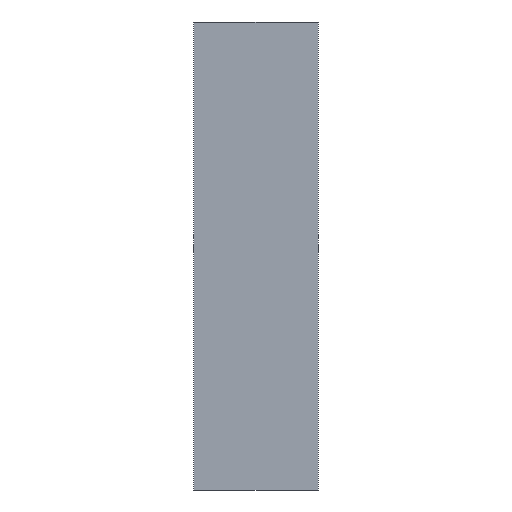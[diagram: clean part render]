
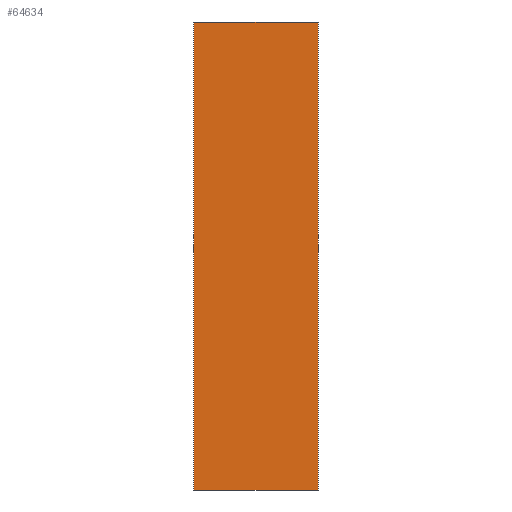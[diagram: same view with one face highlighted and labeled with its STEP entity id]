
A CAD part, front view. The second image highlights one B-rep face of the part: STEP entity #64634.
In plain terms, the highlighted planar face has unit normal (0, -1, 0).
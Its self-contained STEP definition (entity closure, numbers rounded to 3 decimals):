
#7462=DIRECTION('',(1.,0.,0.));
#7463=VECTOR('',#7462,80.);
#7464=CARTESIAN_POINT('',(-40.,104.,70.));
#7465=LINE('',#7464,#7463);
#7466=DIRECTION('',(0.,0.,-1.));
#7467=VECTOR('',#7466,300.);
#7468=CARTESIAN_POINT('',(40.,104.,70.));
#7469=LINE('',#7468,#7467);
#7470=DIRECTION('',(-1.,0.,0.));
#7471=VECTOR('',#7470,80.);
#7472=CARTESIAN_POINT('',(40.,104.,-230.));
#7473=LINE('',#7472,#7471);
#7474=DIRECTION('',(0.,0.,1.));
#7475=VECTOR('',#7474,300.);
#7476=CARTESIAN_POINT('',(-40.,104.,-230.));
#7477=LINE('',#7476,#7475);
#56757=CARTESIAN_POINT('',(-40.,104.,70.));
#56758=CARTESIAN_POINT('',(40.,104.,70.));
#56759=VERTEX_POINT('',#56757);
#56760=VERTEX_POINT('',#56758);
#56761=CARTESIAN_POINT('',(40.,104.,-230.));
#56762=VERTEX_POINT('',#56761);
#56763=CARTESIAN_POINT('',(-40.,104.,-230.));
#56764=VERTEX_POINT('',#56763);
#64620=CARTESIAN_POINT('',(0.,104.,0.));
#64621=DIRECTION('',(0.,-1.,0.));
#64622=DIRECTION('',(0.,0.,-1.));
#64623=AXIS2_PLACEMENT_3D('',#64620,#64621,#64622);
#64624=PLANE('',#64623);
#64625=ORIENTED_EDGE('',*,*,#64610,.T.);
#64627=ORIENTED_EDGE('',*,*,#64626,.T.);
#64629=ORIENTED_EDGE('',*,*,#64628,.T.);
#64631=ORIENTED_EDGE('',*,*,#64630,.T.);
#64632=EDGE_LOOP('',(#64625,#64627,#64629,#64631));
#64633=FACE_OUTER_BOUND('',#64632,.F.);
#64634=ADVANCED_FACE('',(#64633),#64624,.T.);
#64610=EDGE_CURVE('',#56759,#56760,#7465,.T.);
#64626=EDGE_CURVE('',#56760,#56762,#7469,.T.);
#64628=EDGE_CURVE('',#56762,#56764,#7473,.T.);
#64630=EDGE_CURVE('',#56764,#56759,#7477,.T.);
